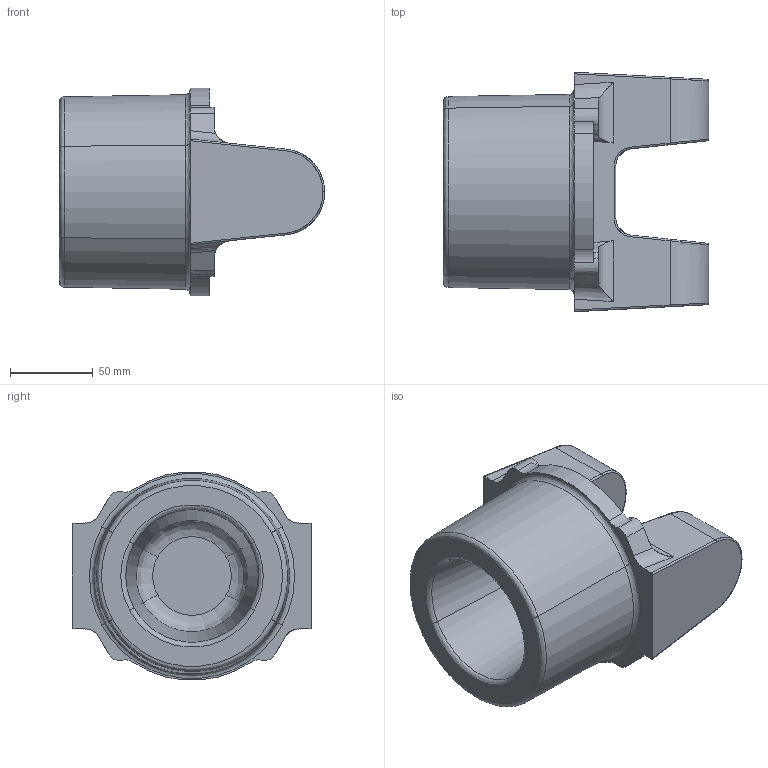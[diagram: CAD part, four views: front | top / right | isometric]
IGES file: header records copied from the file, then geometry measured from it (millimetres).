
Start section: START RECORD GO HERE.
Global section: file name: BOITIER IRREVERSIBILITE PIECE BRUTE.igs; native system: IBM CATIA IGES - CATIA Version 5 Release 18 ; preprocessor: CATIA Version 5 Release 18 ; author: Propriétaire; organization: FUJITSU-79916BB; date: 20090111.155425; units: millimetre
Bounding box: 160.09 x 144.5 x 125.55 mm (x, y, z)
Surface area: 98021.6 mm2 (no closed solid volume)
Topology: 0 solids, 0 shells, 114 faces, 599 edges, 599 vertices
Faces by surface type: revolution 68, plane 30, bspline 16
